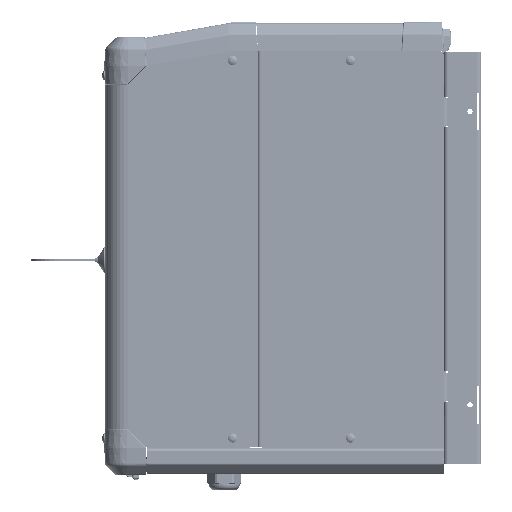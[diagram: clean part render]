
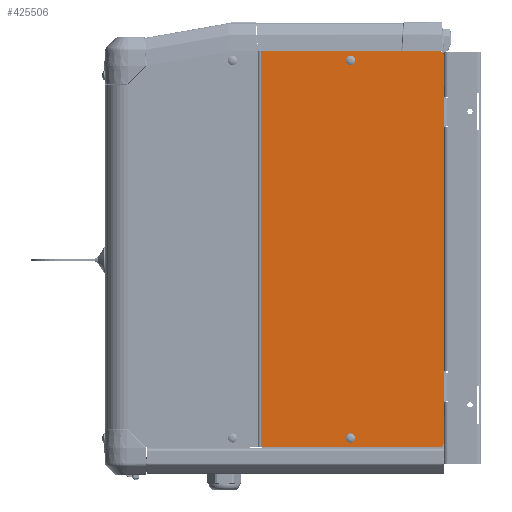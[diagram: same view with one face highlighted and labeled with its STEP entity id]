
A CAD part, left-side view. The second image highlights one B-rep face of the part: STEP entity #425506.
In plain terms, the highlighted planar face has unit normal (-1, 0, 0) as drawn and (1, 0, 0) by its records, which use the part's own axes.
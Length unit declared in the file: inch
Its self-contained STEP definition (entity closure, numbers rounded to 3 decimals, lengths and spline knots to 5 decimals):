
#9794 = ORIENTED_EDGE ( 'NONE', *, *, #254507, .T. ) ;
#14138 = CARTESIAN_POINT ( 'NONE',  ( 0.08, 5., -10.107 ) ) ;
#17863 = AXIS2_PLACEMENT_3D ( 'NONE', #410819, #180696, #408709 ) ;
#24482 = ORIENTED_EDGE ( 'NONE', *, *, #171461, .F. ) ;
#33758 = CARTESIAN_POINT ( 'NONE',  ( 0.08, 0., 10.607 ) ) ;
#39527 = LINE ( 'NONE', #194339, #136903 ) ;
#39949 = DIRECTION ( 'NONE',  ( 0., 0., 1. ) ) ;
#40316 = DIRECTION ( 'NONE',  ( 0., 0., -1. ) ) ;
#40515 = LINE ( 'NONE', #172906, #289793 ) ;
#41550 = ORIENTED_EDGE ( 'NONE', *, *, #52663, .F. ) ;
#44065 = CARTESIAN_POINT ( 'NONE',  ( 0.08, 0., 8.107 ) ) ;
#52663 = EDGE_CURVE ( 'NONE', #168898, #302873, #349961, .T. ) ;
#55021 = CARTESIAN_POINT ( 'NONE',  ( 0.08, 5., -9.9665 ) ) ;
#59937 = CARTESIAN_POINT ( 'NONE',  ( 0.08, 5., -10.107 ) ) ;
#61783 = FACE_BOUND ( 'NONE', #97984, .T. ) ;
#76775 = CARTESIAN_POINT ( 'NONE',  ( 0.08, 5., -10.2475 ) ) ;
#79812 = CIRCLE ( 'NONE', #329163, 0.1405 ) ;
#86574 = CARTESIAN_POINT ( 'NONE',  ( 0.08, 5., 10.2475 ) ) ;
#88984 = AXIS2_PLACEMENT_3D ( 'NONE', #428235, #165523, #135167 ) ;
#89690 = AXIS2_PLACEMENT_3D ( 'NONE', #311177, #309052, #39949 ) ;
#91188 = CARTESIAN_POINT ( 'NONE',  ( 0.08, 0., -10.607 ) ) ;
#92273 = VECTOR ( 'NONE', #355951, 39.37008 ) ;
#97984 = EDGE_LOOP ( 'NONE', ( #124830, #157509 ) ) ;
#101845 = DIRECTION ( 'NONE',  ( 0., 0., 1. ) ) ;
#109414 = CARTESIAN_POINT ( 'NONE',  ( 0.08, 0.25, -10.607 ) ) ;
#119590 = ORIENTED_EDGE ( 'NONE', *, *, #197042, .T. ) ;
#124830 = ORIENTED_EDGE ( 'NONE', *, *, #191546, .F. ) ;
#134185 = ORIENTED_EDGE ( 'NONE', *, *, #291940, .T. ) ;
#135167 = DIRECTION ( 'NONE',  ( 0., 0., -1. ) ) ;
#136269 = CARTESIAN_POINT ( 'NONE',  ( 0.08, 5., 10.107 ) ) ;
#136903 = VECTOR ( 'NONE', #387647, 39.37008 ) ;
#138524 = VERTEX_POINT ( 'NONE', #283426 ) ;
#139356 = VECTOR ( 'NONE', #282438, 39.37008 ) ;
#147204 = LINE ( 'NONE', #344789, #262541 ) ;
#147850 = CARTESIAN_POINT ( 'NONE',  ( 0.08, 0., 10.607 ) ) ;
#148037 = CIRCLE ( 'NONE', #272946, 0.1405 ) ;
#151604 = EDGE_CURVE ( 'NONE', #358324, #300881, #294320, .T. ) ;
#155146 = DIRECTION ( 'NONE',  ( -1., 0., 0. ) ) ;
#155489 = DIRECTION ( 'NONE',  ( 0., 0., -1. ) ) ;
#155956 = VERTEX_POINT ( 'NONE', #44065 ) ;
#157509 = ORIENTED_EDGE ( 'NONE', *, *, #414543, .F. ) ;
#159405 = PLANE ( 'NONE',  #192349 ) ;
#160166 = VERTEX_POINT ( 'NONE', #243903 ) ;
#163667 = FACE_OUTER_BOUND ( 'NONE', #339234, .T. ) ;
#164455 = DIRECTION ( 'NONE',  ( 0., 0., -1. ) ) ;
#165523 = DIRECTION ( 'NONE',  ( 1., 0., 0. ) ) ;
#168898 = VERTEX_POINT ( 'NONE', #401872 ) ;
#171461 = EDGE_CURVE ( 'NONE', #179953, #179645, #408405, .T. ) ;
#172050 = ORIENTED_EDGE ( 'NONE', *, *, #366429, .T. ) ;
#172906 = CARTESIAN_POINT ( 'NONE',  ( 0.08, 0., 10.607 ) ) ;
#179645 = VERTEX_POINT ( 'NONE', #234069 ) ;
#179953 = VERTEX_POINT ( 'NONE', #381464 ) ;
#180696 = DIRECTION ( 'NONE',  ( 1., 0., 0. ) ) ;
#191546 = EDGE_CURVE ( 'NONE', #283666, #391020, #148037, .T. ) ;
#192349 = AXIS2_PLACEMENT_3D ( 'NONE', #291903, #155146, #389565 ) ;
#194339 = CARTESIAN_POINT ( 'NONE',  ( 0.08, 0., 10.607 ) ) ;
#197042 = EDGE_CURVE ( 'NONE', #160166, #155956, #39527, .T. ) ;
#205382 = VECTOR ( 'NONE', #257471, 39.37008 ) ;
#207443 = DIRECTION ( 'NONE',  ( 1., 0., 0. ) ) ;
#214209 = CARTESIAN_POINT ( 'NONE',  ( 0.08, 0., 10.607 ) ) ;
#228970 = EDGE_LOOP ( 'NONE', ( #41550, #404815 ) ) ;
#233046 = EDGE_CURVE ( 'NONE', #302873, #168898, #262132, .T. ) ;
#234069 = CARTESIAN_POINT ( 'NONE',  ( 0.08, 9.81515, 10.607 ) ) ;
#243903 = CARTESIAN_POINT ( 'NONE',  ( 0.08, 0., 10.357 ) ) ;
#244205 = ORIENTED_EDGE ( 'NONE', *, *, #268472, .F. ) ;
#247087 = DIRECTION ( 'NONE',  ( 0., 0., -1. ) ) ;
#249216 = CIRCLE ( 'NONE', #89690, 0.25 ) ;
#252991 = AXIS2_PLACEMENT_3D ( 'NONE', #136269, #333796, #164455 ) ;
#254507 = EDGE_CURVE ( 'NONE', #300881, #284353, #40515, .T. ) ;
#256057 = LINE ( 'NONE', #91188, #92273 ) ;
#257471 = DIRECTION ( 'NONE',  ( 0., 0., -1. ) ) ;
#261408 = FACE_BOUND ( 'NONE', #228970, .T. ) ;
#262132 = CIRCLE ( 'NONE', #88984, 0.1405 ) ;
#262541 = VECTOR ( 'NONE', #247087, 39.37008 ) ;
#268472 = EDGE_CURVE ( 'NONE', #138524, #155956, #399117, .T. ) ;
#272946 = AXIS2_PLACEMENT_3D ( 'NONE', #59937, #324718, #420304 ) ;
#282438 = DIRECTION ( 'NONE',  ( 0., 1., 0. ) ) ;
#283426 = CARTESIAN_POINT ( 'NONE',  ( 0.08, 0., 6.607 ) ) ;
#283666 = VERTEX_POINT ( 'NONE', #76775 ) ;
#284353 = VERTEX_POINT ( 'NONE', #412037 ) ;
#289793 = VECTOR ( 'NONE', #372666, 39.37008 ) ;
#291903 = CARTESIAN_POINT ( 'NONE',  ( 0.08, 0., 10.607 ) ) ;
#291940 = EDGE_CURVE ( 'NONE', #347137, #336799, #256057, .T. ) ;
#294320 = LINE ( 'NONE', #33758, #205382 ) ;
#297664 = EDGE_CURVE ( 'NONE', #179645, #336799, #147204, .T. ) ;
#300881 = VERTEX_POINT ( 'NONE', #389603 ) ;
#301405 = CARTESIAN_POINT ( 'NONE',  ( 0.08, 0., 10.607 ) ) ;
#302873 = VERTEX_POINT ( 'NONE', #86574 ) ;
#306374 = VECTOR ( 'NONE', #101845, 39.37008 ) ;
#309052 = DIRECTION ( 'NONE',  ( 1., 0., 0. ) ) ;
#311177 = CARTESIAN_POINT ( 'NONE',  ( 0.08, 0.25, -10.357 ) ) ;
#313928 = ORIENTED_EDGE ( 'NONE', *, *, #151604, .T. ) ;
#314780 = EDGE_CURVE ( 'NONE', #138524, #358324, #350936, .T. ) ;
#320922 = ORIENTED_EDGE ( 'NONE', *, *, #297664, .F. ) ;
#324718 = DIRECTION ( 'NONE',  ( 1., 0., 0. ) ) ;
#329163 = AXIS2_PLACEMENT_3D ( 'NONE', #14138, #207443, #40316 ) ;
#333796 = DIRECTION ( 'NONE',  ( 1., 0., 0. ) ) ;
#336583 = EDGE_CURVE ( 'NONE', #284353, #347137, #249216, .T. ) ;
#336799 = VERTEX_POINT ( 'NONE', #397649 ) ;
#336806 = CIRCLE ( 'NONE', #17863, 0.25 ) ;
#339234 = EDGE_LOOP ( 'NONE', ( #24482, #172050, #119590, #244205, #428118, #313928, #9794, #369485, #134185, #320922 ) ) ;
#344789 = CARTESIAN_POINT ( 'NONE',  ( 0.08, 9.81515, 10.607 ) ) ;
#347137 = VERTEX_POINT ( 'NONE', #109414 ) ;
#349961 = CIRCLE ( 'NONE', #252991, 0.1405 ) ;
#350936 = LINE ( 'NONE', #214209, #384007 ) ;
#355951 = DIRECTION ( 'NONE',  ( 0., 1., 0. ) ) ;
#358324 = VERTEX_POINT ( 'NONE', #417593 ) ;
#366429 = EDGE_CURVE ( 'NONE', #179953, #160166, #336806, .T. ) ;
#369485 = ORIENTED_EDGE ( 'NONE', *, *, #336583, .T. ) ;
#372666 = DIRECTION ( 'NONE',  ( 0., 0., -1. ) ) ;
#381464 = CARTESIAN_POINT ( 'NONE',  ( 0.08, 0.25, 10.607 ) ) ;
#384007 = VECTOR ( 'NONE', #155489, 39.37008 ) ;
#387647 = DIRECTION ( 'NONE',  ( 0., 0., -1. ) ) ;
#389565 = DIRECTION ( 'NONE',  ( 0., 0., 1. ) ) ;
#389603 = CARTESIAN_POINT ( 'NONE',  ( 0.08, 0., -8.107 ) ) ;
#391020 = VERTEX_POINT ( 'NONE', #55021 ) ;
#397649 = CARTESIAN_POINT ( 'NONE',  ( 0.08, 9.81515, -10.607 ) ) ;
#399117 = LINE ( 'NONE', #301405, #306374 ) ;
#401872 = CARTESIAN_POINT ( 'NONE',  ( 0.08, 5., 9.9665 ) ) ;
#404815 = ORIENTED_EDGE ( 'NONE', *, *, #233046, .F. ) ;
#408405 = LINE ( 'NONE', #147850, #139356 ) ;
#408709 = DIRECTION ( 'NONE',  ( 0., 0., 1. ) ) ;
#410819 = CARTESIAN_POINT ( 'NONE',  ( 0.08, 0.25, 10.357 ) ) ;
#412037 = CARTESIAN_POINT ( 'NONE',  ( 0.08, 0., -10.357 ) ) ;
#414543 = EDGE_CURVE ( 'NONE', #391020, #283666, #79812, .T. ) ;
#417593 = CARTESIAN_POINT ( 'NONE',  ( 0.08, 0., -6.607 ) ) ;
#420304 = DIRECTION ( 'NONE',  ( 0., 0., -1. ) ) ;
#425506 = ADVANCED_FACE ( 'NONE', ( #261408, #61783, #163667 ), #159405, .F. ) ;
#428118 = ORIENTED_EDGE ( 'NONE', *, *, #314780, .T. ) ;
#428235 = CARTESIAN_POINT ( 'NONE',  ( 0.08, 5., 10.107 ) ) ;
